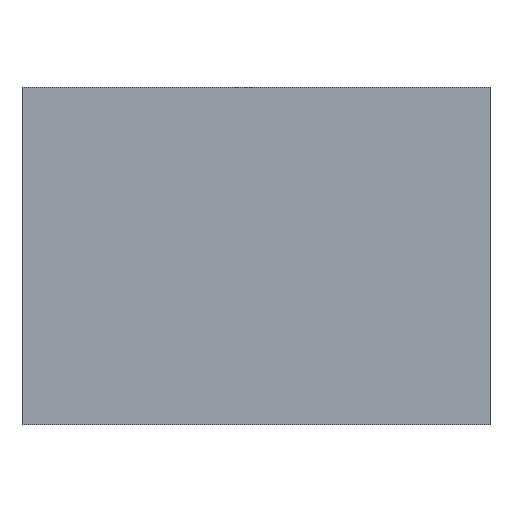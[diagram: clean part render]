
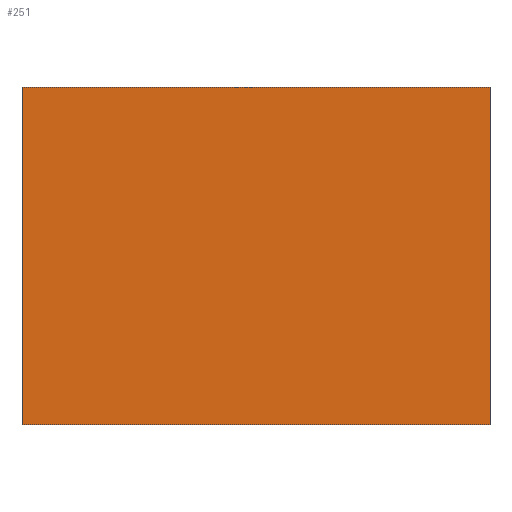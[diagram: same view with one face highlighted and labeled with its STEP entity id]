
A CAD part, top view. The second image highlights one B-rep face of the part: STEP entity #251.
In plain terms, the highlighted planar face has unit normal (0, 0, 1).
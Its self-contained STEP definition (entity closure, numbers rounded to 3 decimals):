
#6 = LINE ( 'NONE', #827, #999 ) ;
#109 = VECTOR ( 'NONE', #1383, 1000. ) ;
#197 = EDGE_CURVE ( 'NONE', #306, #586, #1372, .T. ) ;
#251 = ADVANCED_FACE ( 'NONE', ( #290 ), #761, .T. ) ;
#290 = FACE_OUTER_BOUND ( 'NONE', #1025, .T. ) ;
#299 = ORIENTED_EDGE ( 'NONE', *, *, #561, .T. ) ;
#306 = VERTEX_POINT ( 'NONE', #514 ) ;
#460 = CARTESIAN_POINT ( 'NONE',  ( 748., 539., 18. ) ) ;
#465 = ORIENTED_EDGE ( 'NONE', *, *, #753, .T. ) ;
#514 = CARTESIAN_POINT ( 'NONE',  ( 748., -539., 18. ) ) ;
#517 = VERTEX_POINT ( 'NONE', #1569 ) ;
#561 = EDGE_CURVE ( 'NONE', #586, #1508, #1713, .T. ) ;
#586 = VERTEX_POINT ( 'NONE', #460 ) ;
#596 = CARTESIAN_POINT ( 'NONE',  ( -748., -539., 18. ) ) ;
#603 = CARTESIAN_POINT ( 'NONE',  ( 0., 0., 18. ) ) ;
#734 = VECTOR ( 'NONE', #748, 1000. ) ;
#748 = DIRECTION ( 'NONE',  ( -1., 0., 0. ) ) ;
#753 = EDGE_CURVE ( 'NONE', #1508, #517, #6, .T. ) ;
#761 = PLANE ( 'NONE',  #1895 ) ;
#827 = CARTESIAN_POINT ( 'NONE',  ( -748., 539., 18. ) ) ;
#999 = VECTOR ( 'NONE', #1268, 1000. ) ;
#1025 = EDGE_LOOP ( 'NONE', ( #465, #1549, #1407, #299 ) ) ;
#1084 = DIRECTION ( 'NONE',  ( 0., 0., 1. ) ) ;
#1228 = CARTESIAN_POINT ( 'NONE',  ( 748., 539., 18. ) ) ;
#1247 = CARTESIAN_POINT ( 'NONE',  ( -748., 539., 18. ) ) ;
#1256 = DIRECTION ( 'NONE',  ( 1., 0., 0. ) ) ;
#1268 = DIRECTION ( 'NONE',  ( 0., -1., 0. ) ) ;
#1372 = LINE ( 'NONE', #1228, #109 ) ;
#1383 = DIRECTION ( 'NONE',  ( 0., 1., 0. ) ) ;
#1407 = ORIENTED_EDGE ( 'NONE', *, *, #197, .T. ) ;
#1508 = VERTEX_POINT ( 'NONE', #1678 ) ;
#1549 = ORIENTED_EDGE ( 'NONE', *, *, #1739, .T. ) ;
#1569 = CARTESIAN_POINT ( 'NONE',  ( -748., -539., 18. ) ) ;
#1678 = CARTESIAN_POINT ( 'NONE',  ( -748., 539., 18. ) ) ;
#1713 = LINE ( 'NONE', #1247, #734 ) ;
#1716 = DIRECTION ( 'NONE',  ( 1., 0., 0. ) ) ;
#1739 = EDGE_CURVE ( 'NONE', #517, #306, #1907, .T. ) ;
#1895 = AXIS2_PLACEMENT_3D ( 'NONE', #603, #1084, #1716 ) ;
#1907 = LINE ( 'NONE', #596, #1937 ) ;
#1937 = VECTOR ( 'NONE', #1256, 1000. ) ;
